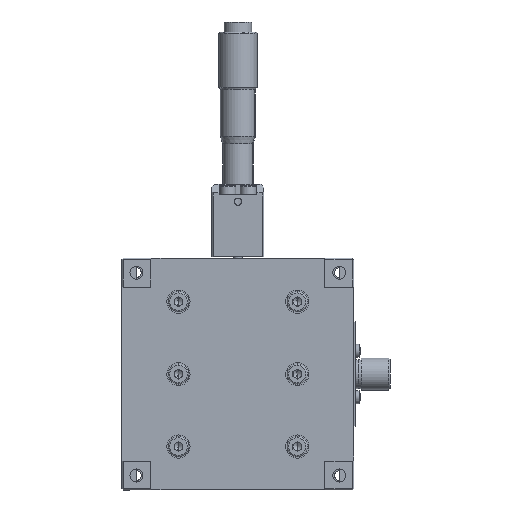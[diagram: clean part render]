
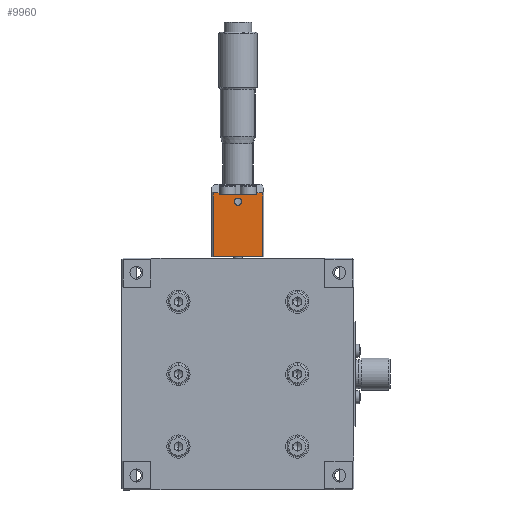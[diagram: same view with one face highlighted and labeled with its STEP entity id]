
A CAD part, front view. The second image highlights one B-rep face of the part: STEP entity #9960.
In plain terms, the highlighted planar face has unit normal (0, -1, 0).
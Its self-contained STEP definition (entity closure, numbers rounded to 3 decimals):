
#29 = FACE_OUTER_BOUND ( 'NONE', #12643, .T. ) ;
#235 = VERTEX_POINT ( 'NONE', #8842 ) ;
#427 = VERTEX_POINT ( 'NONE', #5542 ) ;
#461 = LINE ( 'NONE', #15504, #13941 ) ;
#1130 = DIRECTION ( 'NONE',  ( 0., 0., -1. ) ) ;
#1216 = EDGE_CURVE ( 'NONE', #9570, #22069, #20482, .T. ) ;
#1603 = ORIENTED_EDGE ( 'NONE', *, *, #12281, .F. ) ;
#1713 = EDGE_CURVE ( 'NONE', #15804, #427, #20460, .T. ) ;
#2060 = VERTEX_POINT ( 'NONE', #16606 ) ;
#3225 = VECTOR ( 'NONE', #10097, 1000. ) ;
#3544 = DIRECTION ( 'NONE',  ( 0., 0., 1. ) ) ;
#4041 = EDGE_CURVE ( 'NONE', #427, #15804, #9844, .T. ) ;
#4193 = DIRECTION ( 'NONE',  ( 0., 1., 0. ) ) ;
#4443 = CARTESIAN_POINT ( 'NONE',  ( -18.45, 3., 62.5 ) ) ;
#4668 = DIRECTION ( 'NONE',  ( 1., 0., 0. ) ) ;
#4857 = EDGE_CURVE ( 'NONE', #6271, #18873, #11653, .T. ) ;
#4970 = CARTESIAN_POINT ( 'NONE',  ( -0.95, 3., 40.5 ) ) ;
#5016 = LINE ( 'NONE', #14911, #16096 ) ;
#5542 = CARTESIAN_POINT ( 'NONE',  ( -10.7, 3., 59.5 ) ) ;
#5591 = DIRECTION ( 'NONE',  ( 1., 0., 0. ) ) ;
#6271 = VERTEX_POINT ( 'NONE', #24134 ) ;
#6305 = VECTOR ( 'NONE', #3544, 1000. ) ;
#6320 = CARTESIAN_POINT ( 'NONE',  ( -2.95, 3., 62. ) ) ;
#6439 = DIRECTION ( 'NONE',  ( 0., 0., -1. ) ) ;
#6856 = EDGE_CURVE ( 'NONE', #22069, #6271, #13050, .T. ) ;
#7113 = EDGE_CURVE ( 'NONE', #10996, #235, #5016, .T. ) ;
#7195 = EDGE_CURVE ( 'NONE', #2060, #9570, #461, .T. ) ;
#7254 = DIRECTION ( 'NONE',  ( 0., 0., 1. ) ) ;
#7442 = ORIENTED_EDGE ( 'NONE', *, *, #19028, .T. ) ;
#7539 = ORIENTED_EDGE ( 'NONE', *, *, #7195, .T. ) ;
#7640 = VECTOR ( 'NONE', #6439, 1000. ) ;
#8065 = DIRECTION ( 'NONE',  ( 1., 0., 0. ) ) ;
#8291 = PLANE ( 'NONE',  #11395 ) ;
#8842 = CARTESIAN_POINT ( 'NONE',  ( -15.95, 3., 62.5 ) ) ;
#8891 = FACE_BOUND ( 'NONE', #21049, .T. ) ;
#9570 = VERTEX_POINT ( 'NONE', #4970 ) ;
#9844 = CIRCLE ( 'NONE', #10976, 1.25 ) ;
#9941 = CARTESIAN_POINT ( 'NONE',  ( -17.95, 3., 62.5 ) ) ;
#9960 = ADVANCED_FACE ( 'NONE', ( #8891, #29 ), #8291, .F. ) ;
#10097 = DIRECTION ( 'NONE',  ( -1., 0., 0. ) ) ;
#10175 = DIRECTION ( 'NONE',  ( 0., -1., 0. ) ) ;
#10512 = CARTESIAN_POINT ( 'NONE',  ( -18.45, 3., 62. ) ) ;
#10976 = AXIS2_PLACEMENT_3D ( 'NONE', #11989, #10175, #14057 ) ;
#10996 = VERTEX_POINT ( 'NONE', #18919 ) ;
#11395 = AXIS2_PLACEMENT_3D ( 'NONE', #19758, #4193, #22083 ) ;
#11437 = VECTOR ( 'NONE', #4668, 1000. ) ;
#11653 = LINE ( 'NONE', #18252, #7640 ) ;
#11989 = CARTESIAN_POINT ( 'NONE',  ( -9.45, 3., 59.5 ) ) ;
#12267 = DIRECTION ( 'NONE',  ( -1., 0., 0. ) ) ;
#12271 = ORIENTED_EDGE ( 'NONE', *, *, #4041, .F. ) ;
#12281 = EDGE_CURVE ( 'NONE', #10996, #18873, #16663, .T. ) ;
#12297 = ORIENTED_EDGE ( 'NONE', *, *, #4857, .T. ) ;
#12446 = ORIENTED_EDGE ( 'NONE', *, *, #6856, .T. ) ;
#12643 = EDGE_LOOP ( 'NONE', ( #7539, #22873, #12446, #12297, #1603, #22043, #25373, #7442 ) ) ;
#12870 = CARTESIAN_POINT ( 'NONE',  ( -17.95, 3., 40. ) ) ;
#13050 = LINE ( 'NONE', #19926, #3225 ) ;
#13941 = VECTOR ( 'NONE', #5591, 1000. ) ;
#14053 = AXIS2_PLACEMENT_3D ( 'NONE', #19621, #25442, #8065 ) ;
#14057 = DIRECTION ( 'NONE',  ( 1., 0., 0. ) ) ;
#14911 = CARTESIAN_POINT ( 'NONE',  ( -15.95, 3., 40. ) ) ;
#15504 = CARTESIAN_POINT ( 'NONE',  ( -18.45, 3., 40.5 ) ) ;
#15804 = VERTEX_POINT ( 'NONE', #16363 ) ;
#16096 = VECTOR ( 'NONE', #7254, 1000. ) ;
#16363 = CARTESIAN_POINT ( 'NONE',  ( -8.2, 3., 59.5 ) ) ;
#16606 = CARTESIAN_POINT ( 'NONE',  ( -17.95, 3., 40.5 ) ) ;
#16663 = LINE ( 'NONE', #10512, #11437 ) ;
#18252 = CARTESIAN_POINT ( 'NONE',  ( -2.95, 3., 40. ) ) ;
#18755 = VERTEX_POINT ( 'NONE', #9941 ) ;
#18804 = VECTOR ( 'NONE', #12267, 1000. ) ;
#18873 = VERTEX_POINT ( 'NONE', #6320 ) ;
#18919 = CARTESIAN_POINT ( 'NONE',  ( -15.95, 3., 62. ) ) ;
#19028 = EDGE_CURVE ( 'NONE', #18755, #2060, #23287, .T. ) ;
#19200 = ORIENTED_EDGE ( 'NONE', *, *, #1713, .F. ) ;
#19621 = CARTESIAN_POINT ( 'NONE',  ( -9.45, 3., 59.5 ) ) ;
#19758 = CARTESIAN_POINT ( 'NONE',  ( -18.45, 3., 40. ) ) ;
#19926 = CARTESIAN_POINT ( 'NONE',  ( -18.45, 3., 62.5 ) ) ;
#20460 = CIRCLE ( 'NONE', #14053, 1.25 ) ;
#20482 = LINE ( 'NONE', #23042, #6305 ) ;
#21049 = EDGE_LOOP ( 'NONE', ( #19200, #12271 ) ) ;
#21387 = CARTESIAN_POINT ( 'NONE',  ( -0.95, 3., 62.5 ) ) ;
#22043 = ORIENTED_EDGE ( 'NONE', *, *, #7113, .T. ) ;
#22069 = VERTEX_POINT ( 'NONE', #21387 ) ;
#22083 = DIRECTION ( 'NONE',  ( 0., 0., -1. ) ) ;
#22873 = ORIENTED_EDGE ( 'NONE', *, *, #1216, .T. ) ;
#23042 = CARTESIAN_POINT ( 'NONE',  ( -0.95, 3., 40. ) ) ;
#23287 = LINE ( 'NONE', #12870, #23582 ) ;
#23582 = VECTOR ( 'NONE', #1130, 1000. ) ;
#23717 = LINE ( 'NONE', #4443, #18804 ) ;
#24134 = CARTESIAN_POINT ( 'NONE',  ( -2.95, 3., 62.5 ) ) ;
#24211 = EDGE_CURVE ( 'NONE', #235, #18755, #23717, .T. ) ;
#25373 = ORIENTED_EDGE ( 'NONE', *, *, #24211, .T. ) ;
#25442 = DIRECTION ( 'NONE',  ( 0., -1., 0. ) ) ;
